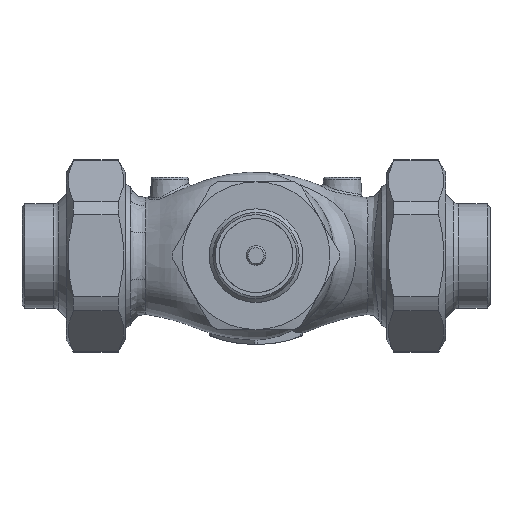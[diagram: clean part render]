
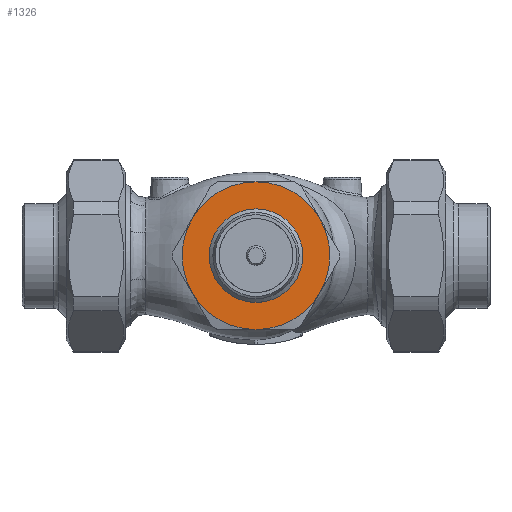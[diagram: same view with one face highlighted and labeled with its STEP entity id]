
A CAD part, top view. The second image highlights one B-rep face of the part: STEP entity #1326.
In plain terms, the highlighted planar face has unit normal (0, 0, 1).
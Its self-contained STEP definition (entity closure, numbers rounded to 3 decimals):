
#827=PLANE('',#9640);
#1099=FACE_BOUND('',#2706,.T.);
#1100=FACE_BOUND('',#2707,.T.);
#1326=ADVANCED_FACE('',(#1099,#1100),#827,.T.);
#2706=EDGE_LOOP('',(#4261));
#2707=EDGE_LOOP('',(#4262,#4263,#4264,#4265,#4266,#4267));
#3279=CIRCLE('',#9553,19.);
#3309=CIRCLE('',#9634,30.);
#3310=CIRCLE('',#9635,30.);
#3311=CIRCLE('',#9636,30.);
#3312=CIRCLE('',#9637,30.);
#3313=CIRCLE('',#9638,30.);
#3314=CIRCLE('',#9639,30.);
#4261=ORIENTED_EDGE('',*,*,#7463,.T.);
#4262=ORIENTED_EDGE('',*,*,#7551,.T.);
#4263=ORIENTED_EDGE('',*,*,#7552,.T.);
#4264=ORIENTED_EDGE('',*,*,#7553,.T.);
#4265=ORIENTED_EDGE('',*,*,#7554,.T.);
#4266=ORIENTED_EDGE('',*,*,#7555,.T.);
#4267=ORIENTED_EDGE('',*,*,#7556,.T.);
#6547=VERTEX_POINT('',#20992);
#6590=VERTEX_POINT('',#21186);
#6595=VERTEX_POINT('',#21210);
#6600=VERTEX_POINT('',#21234);
#6605=VERTEX_POINT('',#21258);
#6610=VERTEX_POINT('',#21282);
#6615=VERTEX_POINT('',#21306);
#7463=EDGE_CURVE('',#6547,#6547,#3279,.T.);
#7551=EDGE_CURVE('',#6590,#6595,#3309,.T.);
#7552=EDGE_CURVE('',#6595,#6605,#3310,.T.);
#7553=EDGE_CURVE('',#6605,#6610,#3311,.T.);
#7554=EDGE_CURVE('',#6610,#6615,#3312,.T.);
#7555=EDGE_CURVE('',#6615,#6600,#3313,.T.);
#7556=EDGE_CURVE('',#6600,#6590,#3314,.T.);
#9553=AXIS2_PLACEMENT_3D('',#20991,#10812,#10813);
#9634=AXIS2_PLACEMENT_3D('',#21323,#10996,#10997);
#9635=AXIS2_PLACEMENT_3D('',#21324,#10998,#10999);
#9636=AXIS2_PLACEMENT_3D('',#21325,#11000,#11001);
#9637=AXIS2_PLACEMENT_3D('',#21326,#11002,#11003);
#9638=AXIS2_PLACEMENT_3D('',#21327,#11004,#11005);
#9639=AXIS2_PLACEMENT_3D('',#21328,#11006,#11007);
#9640=AXIS2_PLACEMENT_3D('',#21329,#11008,#11009);
#10812=DIRECTION('',(0.,0.,-1.));
#10813=DIRECTION('',(0.,1.,0.));
#10996=DIRECTION('',(0.,0.,1.));
#10997=DIRECTION('',(-1.,0.,0.));
#10998=DIRECTION('',(0.,0.,1.));
#10999=DIRECTION('',(-1.,0.,0.));
#11000=DIRECTION('',(0.,0.,1.));
#11001=DIRECTION('',(-1.,0.,0.));
#11002=DIRECTION('',(0.,0.,1.));
#11003=DIRECTION('',(-1.,0.,0.));
#11004=DIRECTION('',(0.,0.,1.));
#11005=DIRECTION('',(-1.,0.,0.));
#11006=DIRECTION('',(0.,0.,1.));
#11007=DIRECTION('',(-1.,0.,0.));
#11008=DIRECTION('',(0.,0.,1.));
#11009=DIRECTION('',(-1.,0.,0.));
#20991=CARTESIAN_POINT('',(0.,0.,67.));
#20992=CARTESIAN_POINT('',(0.,19.,67.));
#21186=CARTESIAN_POINT('',(-25.981,-15.,67.));
#21210=CARTESIAN_POINT('',(0.,-30.,67.));
#21234=CARTESIAN_POINT('',(-25.981,15.,67.));
#21258=CARTESIAN_POINT('',(25.981,-15.,67.));
#21282=CARTESIAN_POINT('',(25.981,15.,67.));
#21306=CARTESIAN_POINT('',(0.,30.,67.));
#21323=CARTESIAN_POINT('',(0.,0.,67.));
#21324=CARTESIAN_POINT('',(0.,0.,67.));
#21325=CARTESIAN_POINT('',(0.,0.,67.));
#21326=CARTESIAN_POINT('',(0.,0.,67.));
#21327=CARTESIAN_POINT('',(0.,0.,67.));
#21328=CARTESIAN_POINT('',(0.,0.,67.));
#21329=CARTESIAN_POINT('',(-22.5,0.,67.));
